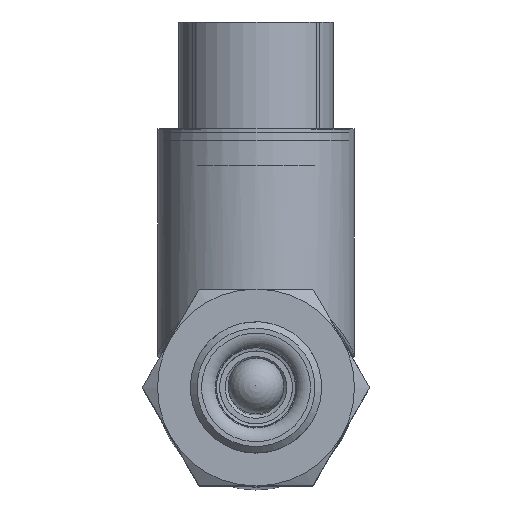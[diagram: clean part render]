
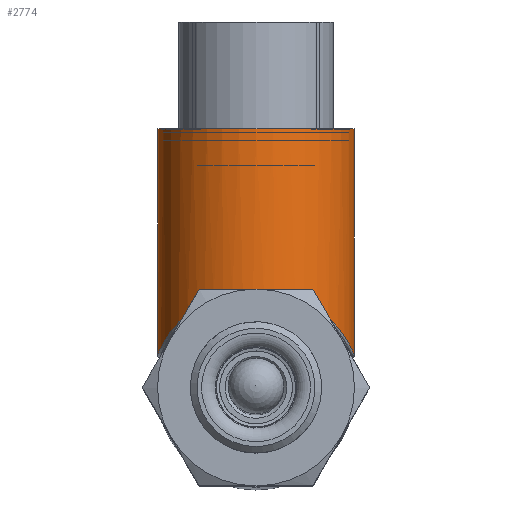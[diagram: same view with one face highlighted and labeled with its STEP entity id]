
A CAD part, top view. The second image highlights one B-rep face of the part: STEP entity #2774.
In plain terms, the highlighted cylindrical face has radius 9.525 mm (diameter 19.05 mm), a full revolution.
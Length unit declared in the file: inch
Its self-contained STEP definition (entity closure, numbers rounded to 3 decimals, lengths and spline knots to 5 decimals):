
#70=B_SPLINE_CURVE_WITH_KNOTS('',3,(#6751,#6752,#6753,#6754,#6755,#6756,
#6757,#6758,#6759,#6760,#6761,#6762,#6763,#6764,#6765,#6766,#6767,#6768,
#6769,#6770,#6771,#6772,#6773,#6774,#6775,#6776,#6777,#6778,#6779,#6780,
#6781),.UNSPECIFIED.,.F.,.F.,(4,1,1,1,1,1,1,1,1,1,1,1,1,1,1,1,1,1,1,1,1,
1,1,1,1,1,1,1,4),(-9.63701,-9.40756,-9.17811,
-8.7192,-8.41326,-8.26029,-8.10733,
-8.03084,-7.95436,-7.80139,-7.49545,
-7.18952,-6.88358,-6.57764,-6.27171,
-5.96577,-5.65983,-5.35389,-5.04796,-4.89499,
-4.81851,-4.74202,-4.58905,-4.43608,
-4.3596,-4.13015,-3.67124,-3.44179,
-3.21234),.UNSPECIFIED.);
#314=FACE_OUTER_BOUND('',#521,.T.);
#521=EDGE_LOOP('',(#1956,#1957,#1958,#1959));
#713=LINE('',#6831,#843);
#843=VECTOR('',#3698,0.375);
#1012=CIRCLE('',#3171,0.375);
#1210=VERTEX_POINT('',#6717);
#1214=VERTEX_POINT('',#6830);
#1483=EDGE_CURVE('',#1210,#1210,#70,.T.);
#1486=EDGE_CURVE('',#1214,#1210,#713,.T.);
#1487=EDGE_CURVE('',#1214,#1214,#1012,.T.);
#1956=ORIENTED_EDGE('',*,*,#1486,.F.);
#1957=ORIENTED_EDGE('',*,*,#1487,.F.);
#1958=ORIENTED_EDGE('',*,*,#1486,.T.);
#1959=ORIENTED_EDGE('',*,*,#1483,.F.);
#2491=CYLINDRICAL_SURFACE('',#3170,0.375);
#2774=ADVANCED_FACE('',(#314),#2491,.T.);
#3170=AXIS2_PLACEMENT_3D('',#6829,#3696,#3697);
#3171=AXIS2_PLACEMENT_3D('',#6832,#3699,#3700);
#3696=DIRECTION('center_axis',(0.,1.,0.));
#3697=DIRECTION('ref_axis',(0.,0.,1.));
#3698=DIRECTION('',(0.,-1.,0.));
#3699=DIRECTION('center_axis',(0.,1.,0.));
#3700=DIRECTION('ref_axis',(0.,0.,1.));
#6717=CARTESIAN_POINT('',(0.,0.3875,-2.84));
#6751=CARTESIAN_POINT('Ctrl Pts',(0.,0.3875,
-2.84));
#6752=CARTESIAN_POINT('Ctrl Pts',(0.03115,0.3875,
-2.84));
#6753=CARTESIAN_POINT('Ctrl Pts',(0.09334,0.38036,
-2.83213));
#6754=CARTESIAN_POINT('Ctrl Pts',(0.20461,0.34111,-2.78842));
#6755=CARTESIAN_POINT('Ctrl Pts',(0.29321,0.27239,-2.71028));
#6756=CARTESIAN_POINT('Ctrl Pts',(0.34371,0.20217,-2.62172));
#6757=CARTESIAN_POINT('Ctrl Pts',(0.36561,0.15994,-2.55434));
#6758=CARTESIAN_POINT('Ctrl Pts',(0.37367,0.14038,-2.50654));
#6759=CARTESIAN_POINT('Ctrl Pts',(0.37544,0.13579,-2.465));
#6760=CARTESIAN_POINT('Ctrl Pts',(0.37368,0.14034,-2.42339));
#6761=CARTESIAN_POINT('Ctrl Pts',(0.36229,0.16812,-2.35673));
#6762=CARTESIAN_POINT('Ctrl Pts',(0.32972,0.22603,-2.27723));
#6763=CARTESIAN_POINT('Ctrl Pts',(0.26718,0.29407,-2.19479));
#6764=CARTESIAN_POINT('Ctrl Pts',(0.17866,0.35266,-2.1287));
#6765=CARTESIAN_POINT('Ctrl Pts',(0.06405,0.38891,-2.0884));
#6766=CARTESIAN_POINT('Ctrl Pts',(-0.06403,0.38898,
-2.08835));
#6767=CARTESIAN_POINT('Ctrl Pts',(-0.17871,0.35264,
-2.1287));
#6768=CARTESIAN_POINT('Ctrl Pts',(-0.26716,0.29414,-2.1948));
#6769=CARTESIAN_POINT('Ctrl Pts',(-0.32974,0.22598,-2.27723));
#6770=CARTESIAN_POINT('Ctrl Pts',(-0.36229,0.16811,
-2.35679));
#6771=CARTESIAN_POINT('Ctrl Pts',(-0.37368,0.14035,
-2.42342));
#6772=CARTESIAN_POINT('Ctrl Pts',(-0.37544,0.1358,
-2.46502));
#6773=CARTESIAN_POINT('Ctrl Pts',(-0.37367,0.14039,
-2.50657));
#6774=CARTESIAN_POINT('Ctrl Pts',(-0.36558,0.15998,
-2.55433));
#6775=CARTESIAN_POINT('Ctrl Pts',(-0.35195,0.18625,
-2.59643));
#6776=CARTESIAN_POINT('Ctrl Pts',(-0.33102,0.21985,
-2.6439));
#6777=CARTESIAN_POINT('Ctrl Pts',(-0.28642,0.27757,
-2.71624));
#6778=CARTESIAN_POINT('Ctrl Pts',(-0.20457,0.3412,
-2.78851));
#6779=CARTESIAN_POINT('Ctrl Pts',(-0.09335,0.38032,
-2.83208));
#6780=CARTESIAN_POINT('Ctrl Pts',(-0.03115,0.3875,-2.84));
#6781=CARTESIAN_POINT('Ctrl Pts',(0.,0.3875,
-2.84));
#6829=CARTESIAN_POINT('Origin',(0.,0.47,
-2.465));
#6830=CARTESIAN_POINT('',(0.,1.,-2.84));
#6831=CARTESIAN_POINT('',(0.,0.47,-2.84));
#6832=CARTESIAN_POINT('Origin',(0.,1.,
-2.465));
